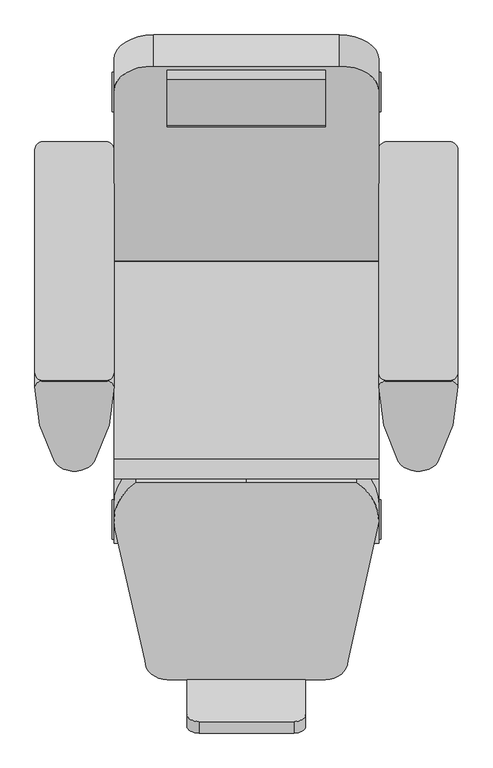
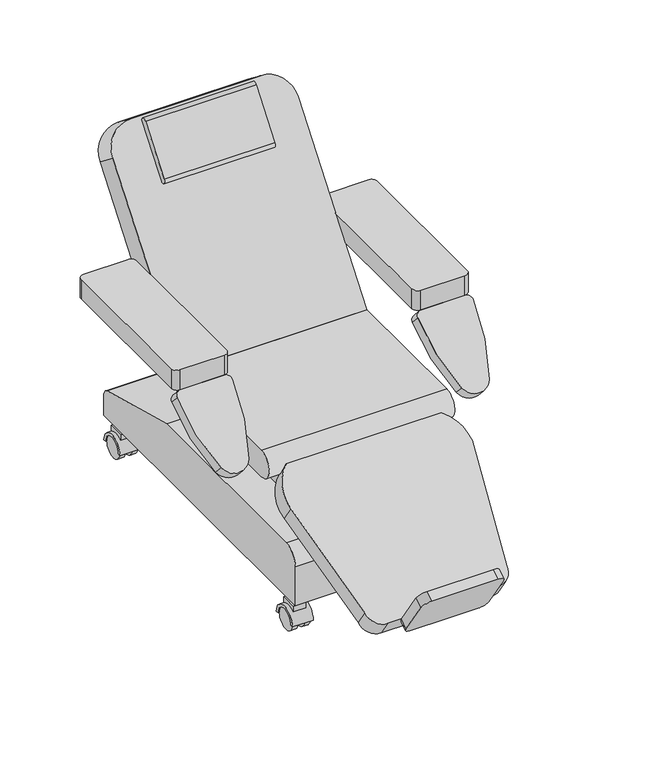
"""IFC4 building model written with IfcOpenShell, lengths in millimetres: furniture geometry, BIMHealth-Chair_Clinical_Reclining-LOD2A-v1 : BIMHealth-Chair_Clinical_Reclining-LOD2A-v1."""

from ifc_helpers import new_model, si_unit, point, frame, frame_2d, origin, place, context, project, spatial, polyline, circle_curve, trimmed, segment, composite_curve, outline, extrude, source, transform, mapped, element, save


def furniture_d13f64de(model_context):
    return source(origin(), model_context, "Body", "SweptSolid", [
        extrude(outline(composite_curve([segment(trimmed(circle_curve(frame_2d((302.7936384, 540.0)), 7.5), [point((310.2936384, 540.0))], [point((295.2936384, 540.0))], False, "CARTESIAN"), True, "CONTINUOUS"), segment(trimmed(circle_curve(frame_2d((302.7936384, 540.0)), 7.5), [point((295.2936384, 540.0))], [point((310.2936384, 540.0))], False, "CARTESIAN"), True, "CONTINUOUS")], self_intersect=False)), frame((0.0, 0.0, 102.2775188), z_axis=(0.0, 0.0, 1.0), x_axis=(1.0, 0.0, 0.0)), (0.0, 0.0, 1.0), 20.0),
        extrude(outline(composite_curve([segment(polyline([(569.2564005, 102.2775188), (569.2564005, 80.5470471)]), True, "CONTINUOUS"), segment(trimmed(circle_curve(frame_2d((540.0, 40.0)), 50.0), [point((569.2564005, 80.5470471))], [point((510.7435995, 80.5470471))], True, "CARTESIAN"), True, "CONTINUOUS"), segment(polyline([(510.7435995, 80.5470471), (510.7435995, 102.2775188), (569.2564005, 102.2775188)]), True, "CONTINUOUS")], self_intersect=False)), frame((280.1679747, 0.0, 0.0), z_axis=(1.0, 0.0, 0.0), x_axis=(0.0, 1.0, 0.0)), (0.0, 0.0, 1.0), 45.2513275),
        extrude(outline(composite_curve([segment(trimmed(circle_curve(frame_2d((540.0, 40.0)), 40.0), [point((580.0, 40.0))], [point((500.0, 40.0))], True, "CARTESIAN"), True, "CONTINUOUS"), segment(polyline([(500.0, 40.0), (490.0, 40.0)]), True, "CONTINUOUS"), segment(trimmed(circle_curve(frame_2d((540.0, 40.0)), 50.0), [point((490.0, 40.0))], [point((590.0, 40.0))], False, "CARTESIAN"), True, "CONTINUOUS"), segment(polyline([(590.0, 40.0), (580.0, 40.0)]), True, "CONTINUOUS")], self_intersect=False)), frame((265.0, 0.0, 0.0), z_axis=(1.0, 0.0, 0.0), x_axis=(0.0, 1.0, 0.0)), (0.0, 0.0, 1.0), 75.0),
        extrude(outline(composite_curve([segment(trimmed(circle_curve(frame_2d((540.0, 40.0)), 40.0), [point((500.0, 40.0))], [point((580.0, 40.0))], False, "CARTESIAN"), True, "CONTINUOUS"), segment(trimmed(circle_curve(frame_2d((540.0, 40.0)), 40.0), [point((580.0, 40.0))], [point((500.0, 40.0))], False, "CARTESIAN"), True, "CONTINUOUS")], self_intersect=False)), frame((270.0, 0.0, 0.0), z_axis=(1.0, 0.0, 0.0), x_axis=(0.0, 1.0, 0.0)), (0.0, 0.0, 1.0), 20.0),
        extrude(outline(composite_curve([segment(trimmed(circle_curve(frame_2d((540.0, 40.0)), 40.0), [point((500.0, 40.0))], [point((580.0, 40.0))], False, "CARTESIAN"), True, "CONTINUOUS"), segment(trimmed(circle_curve(frame_2d((540.0, 40.0)), 40.0), [point((580.0, 40.0))], [point((500.0, 40.0))], False, "CARTESIAN"), True, "CONTINUOUS")], self_intersect=False)), frame((315.0, 0.0, 0.0), z_axis=(1.0, 0.0, 0.0), x_axis=(0.0, 1.0, 0.0)), (0.0, 0.0, 1.0), 20.0),
        extrude(outline(composite_curve([segment(trimmed(circle_curve(frame_2d((-302.7936384, 540.0)), 7.5), [point((-310.2936384, 540.0))], [point((-295.2936384, 540.0))], False, "CARTESIAN"), True, "CONTINUOUS"), segment(trimmed(circle_curve(frame_2d((-302.7936384, 540.0)), 7.5), [point((-295.2936384, 540.0))], [point((-310.2936384, 540.0))], False, "CARTESIAN"), True, "CONTINUOUS")], self_intersect=False)), frame((0.0, 0.0, 102.2775188), z_axis=(0.0, 0.0, 1.0), x_axis=(1.0, 0.0, 0.0)), (0.0, 0.0, 1.0), 20.0),
        extrude(outline(composite_curve([segment(polyline([(569.2564005, 102.2775188), (569.2564005, 80.5470471)]), True, "CONTINUOUS"), segment(trimmed(circle_curve(frame_2d((540.0, 40.0)), 50.0), [point((569.2564005, 80.5470471))], [point((510.7435995, 80.5470471))], True, "CARTESIAN"), True, "CONTINUOUS"), segment(polyline([(510.7435995, 80.5470471), (510.7435995, 102.2775188), (569.2564005, 102.2775188)]), True, "CONTINUOUS")], self_intersect=False)), frame((-325.4193021, 0.0, 0.0), z_axis=(1.0, 0.0, 0.0), x_axis=(0.0, 1.0, 0.0)), (0.0, 0.0, 1.0), 45.2513275),
        extrude(outline(composite_curve([segment(trimmed(circle_curve(frame_2d((540.0, 40.0)), 40.0), [point((580.0, 40.0))], [point((500.0, 40.0))], True, "CARTESIAN"), True, "CONTINUOUS"), segment(polyline([(500.0, 40.0), (490.0, 40.0)]), True, "CONTINUOUS"), segment(trimmed(circle_curve(frame_2d((540.0, 40.0)), 50.0), [point((490.0, 40.0))], [point((590.0, 40.0))], False, "CARTESIAN"), True, "CONTINUOUS"), segment(polyline([(590.0, 40.0), (580.0, 40.0)]), True, "CONTINUOUS")], self_intersect=False)), frame((-340.0, 0.0, 0.0), z_axis=(1.0, 0.0, 0.0), x_axis=(0.0, 1.0, 0.0)), (0.0, 0.0, 1.0), 75.0),
        extrude(outline(composite_curve([segment(trimmed(circle_curve(frame_2d((540.0, 40.0)), 40.0), [point((500.0, 40.0))], [point((580.0, 40.0))], False, "CARTESIAN"), True, "CONTINUOUS"), segment(trimmed(circle_curve(frame_2d((540.0, 40.0)), 40.0), [point((580.0, 40.0))], [point((500.0, 40.0))], False, "CARTESIAN"), True, "CONTINUOUS")], self_intersect=False)), frame((-290.0, 0.0, 0.0), z_axis=(1.0, 0.0, 0.0), x_axis=(0.0, 1.0, 0.0)), (0.0, 0.0, 1.0), 20.0),
        extrude(outline(composite_curve([segment(trimmed(circle_curve(frame_2d((540.0, 40.0)), 40.0), [point((500.0, 40.0))], [point((580.0, 40.0))], False, "CARTESIAN"), True, "CONTINUOUS"), segment(trimmed(circle_curve(frame_2d((540.0, 40.0)), 40.0), [point((580.0, 40.0))], [point((500.0, 40.0))], False, "CARTESIAN"), True, "CONTINUOUS")], self_intersect=False)), frame((-335.0, 0.0, 0.0), z_axis=(1.0, 0.0, 0.0), x_axis=(0.0, 1.0, 0.0)), (0.0, 0.0, 1.0), 20.0),
        extrude(outline(composite_curve([segment(trimmed(circle_curve(frame_2d((302.7936384, -540.0)), 7.5), [point((310.2936384, -540.0))], [point((295.2936384, -540.0))], False, "CARTESIAN"), True, "CONTINUOUS"), segment(trimmed(circle_curve(frame_2d((302.7936384, -540.0)), 7.5), [point((295.2936384, -540.0))], [point((310.2936384, -540.0))], False, "CARTESIAN"), True, "CONTINUOUS")], self_intersect=False)), frame((0.0, 0.0, 102.2775188), z_axis=(0.0, 0.0, 1.0), x_axis=(1.0, 0.0, 0.0)), (0.0, 0.0, 1.0), 20.0),
        extrude(outline(composite_curve([segment(polyline([(-569.2564005, 102.2775188), (-510.7435995, 102.2775188), (-510.7435995, 80.5470471)]), True, "CONTINUOUS"), segment(trimmed(circle_curve(frame_2d((-540.0, 40.0)), 50.0), [point((-510.7435995, 80.5470471))], [point((-569.2564005, 80.5470471))], True, "CARTESIAN"), True, "CONTINUOUS"), segment(polyline([(-569.2564005, 80.5470471), (-569.2564005, 102.2775188)]), True, "CONTINUOUS")], self_intersect=False)), frame((280.1679747, 0.0, 0.0), z_axis=(1.0, 0.0, 0.0), x_axis=(0.0, 1.0, 0.0)), (0.0, 0.0, 1.0), 45.2513275),
        extrude(outline(composite_curve([segment(polyline([(-580.0, 40.0), (-590.0, 40.0)]), True, "CONTINUOUS"), segment(trimmed(circle_curve(frame_2d((-540.0, 40.0)), 50.0), [point((-590.0, 40.0))], [point((-490.0, 40.0))], False, "CARTESIAN"), True, "CONTINUOUS"), segment(polyline([(-490.0, 40.0), (-500.0, 40.0)]), True, "CONTINUOUS"), segment(trimmed(circle_curve(frame_2d((-540.0, 40.0)), 40.0), [point((-500.0, 40.0))], [point((-580.0, 40.0))], True, "CARTESIAN"), True, "CONTINUOUS")], self_intersect=False)), frame((265.0, 0.0, 0.0), z_axis=(1.0, 0.0, 0.0), x_axis=(0.0, 1.0, 0.0)), (0.0, 0.0, 1.0), 75.0),
        extrude(outline(composite_curve([segment(trimmed(circle_curve(frame_2d((-540.0, 40.0)), 40.0), [point((-500.0, 40.0))], [point((-580.0, 40.0))], False, "CARTESIAN"), True, "CONTINUOUS"), segment(trimmed(circle_curve(frame_2d((-540.0, 40.0)), 40.0), [point((-580.0, 40.0))], [point((-500.0, 40.0))], False, "CARTESIAN"), True, "CONTINUOUS")], self_intersect=False)), frame((270.0, 0.0, 0.0), z_axis=(1.0, 0.0, 0.0), x_axis=(0.0, 1.0, 0.0)), (0.0, 0.0, 1.0), 20.0),
        extrude(outline(composite_curve([segment(trimmed(circle_curve(frame_2d((-540.0, 40.0)), 40.0), [point((-500.0, 40.0))], [point((-580.0, 40.0))], False, "CARTESIAN"), True, "CONTINUOUS"), segment(trimmed(circle_curve(frame_2d((-540.0, 40.0)), 40.0), [point((-580.0, 40.0))], [point((-500.0, 40.0))], False, "CARTESIAN"), True, "CONTINUOUS")], self_intersect=False)), frame((315.0, 0.0, 0.0), z_axis=(1.0, 0.0, 0.0), x_axis=(0.0, 1.0, 0.0)), (0.0, 0.0, 1.0), 20.0),
        extrude(outline(composite_curve([segment(trimmed(circle_curve(frame_2d((-302.7936384, -540.0)), 7.5), [point((-310.2936384, -540.0))], [point((-295.2936384, -540.0))], False, "CARTESIAN"), True, "CONTINUOUS"), segment(trimmed(circle_curve(frame_2d((-302.7936384, -540.0)), 7.5), [point((-295.2936384, -540.0))], [point((-310.2936384, -540.0))], False, "CARTESIAN"), True, "CONTINUOUS")], self_intersect=False)), frame((0.0, 0.0, 102.2775188), z_axis=(0.0, 0.0, 1.0), x_axis=(1.0, 0.0, 0.0)), (0.0, 0.0, 1.0), 20.0),
        extrude(outline(composite_curve([segment(polyline([(-569.2564005, 102.2775188), (-510.7435995, 102.2775188), (-510.7435995, 80.5470471)]), True, "CONTINUOUS"), segment(trimmed(circle_curve(frame_2d((-540.0, 40.0)), 50.0), [point((-510.7435995, 80.5470471))], [point((-569.2564005, 80.5470471))], True, "CARTESIAN"), True, "CONTINUOUS"), segment(polyline([(-569.2564005, 80.5470471), (-569.2564005, 102.2775188)]), True, "CONTINUOUS")], self_intersect=False)), frame((-325.4193021, 0.0, 0.0), z_axis=(1.0, 0.0, 0.0), x_axis=(0.0, 1.0, 0.0)), (0.0, 0.0, 1.0), 45.2513275),
        extrude(outline(composite_curve([segment(polyline([(-580.0, 40.0), (-590.0, 40.0)]), True, "CONTINUOUS"), segment(trimmed(circle_curve(frame_2d((-540.0, 40.0)), 50.0), [point((-590.0, 40.0))], [point((-490.0, 40.0))], False, "CARTESIAN"), True, "CONTINUOUS"), segment(polyline([(-490.0, 40.0), (-500.0, 40.0)]), True, "CONTINUOUS"), segment(trimmed(circle_curve(frame_2d((-540.0, 40.0)), 40.0), [point((-500.0, 40.0))], [point((-580.0, 40.0))], True, "CARTESIAN"), True, "CONTINUOUS")], self_intersect=False)), frame((-340.0, 0.0, 0.0), z_axis=(1.0, 0.0, 0.0), x_axis=(0.0, 1.0, 0.0)), (0.0, 0.0, 1.0), 75.0),
        extrude(outline(composite_curve([segment(trimmed(circle_curve(frame_2d((-540.0, 40.0)), 40.0), [point((-500.0, 40.0))], [point((-580.0, 40.0))], False, "CARTESIAN"), True, "CONTINUOUS"), segment(trimmed(circle_curve(frame_2d((-540.0, 40.0)), 40.0), [point((-580.0, 40.0))], [point((-500.0, 40.0))], False, "CARTESIAN"), True, "CONTINUOUS")], self_intersect=False)), frame((-290.0, 0.0, 0.0), z_axis=(1.0, 0.0, 0.0), x_axis=(0.0, 1.0, 0.0)), (0.0, 0.0, 1.0), 20.0),
        extrude(outline(composite_curve([segment(trimmed(circle_curve(frame_2d((-540.0, 40.0)), 40.0), [point((-500.0, 40.0))], [point((-580.0, 40.0))], False, "CARTESIAN"), True, "CONTINUOUS"), segment(trimmed(circle_curve(frame_2d((-540.0, 40.0)), 40.0), [point((-580.0, 40.0))], [point((-500.0, 40.0))], False, "CARTESIAN"), True, "CONTINUOUS")], self_intersect=False)), frame((-335.0, 0.0, 0.0), z_axis=(1.0, 0.0, 0.0), x_axis=(0.0, 1.0, 0.0)), (0.0, 0.0, 1.0), 20.0),
        extrude(outline(composite_curve([segment(polyline([(-29.9999999, -30.0), (-29.9999999, 90.0), (-29.9999999, 210.0)]), True, "CONTINUOUS"), segment(trimmed(circle_curve(frame_2d((0.0, 210.0)), 30.0), [point((-29.9999999, 210.0))], [point((0.0, 240.0))], False, "CARTESIAN"), True, "CONTINUOUS"), segment(polyline([(0.0, 240.0), (165.0, 240.0)]), True, "CONTINUOUS"), segment(trimmed(circle_curve(frame_2d((165.0, 210.0)), 30.0), [point((165.0, 240.0))], [point((195.0000001, 210.0))], False, "CARTESIAN"), True, "CONTINUOUS"), segment(polyline([(195.0000001, 210.0), (195.0000001, -30.0)]), True, "CONTINUOUS"), segment(trimmed(circle_curve(frame_2d((165.0, -30.0)), 30.0), [point((195.0000001, -30.0))], [point((165.0, -60.0))], False, "CARTESIAN"), True, "CONTINUOUS"), segment(polyline([(165.0, -60.0), (0.0, -60.0)]), True, "CONTINUOUS"), segment(trimmed(circle_curve(frame_2d((0.0, -30.0)), 30.0), [point((0.0, -60.0))], [point((-29.9999999, -30.0))], False, "CARTESIAN"), True, "CONTINUOUS")], self_intersect=False)), frame((-90.0, -970.9632437, 196.4316417), z_axis=(0.0, 0.8290375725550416, 0.559192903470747), x_axis=(0.0, -0.559192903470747, 0.8290375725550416)), (0.0, 0.0, 1.0), 35.0),
        extrude(outline(composite_curve([segment(polyline([(-116.0912704, -244.9885096), (-116.0912704, 35.0114904), (-116.0912704, 315.0114904)]), True, "CONTINUOUS"), segment(trimmed(circle_curve(frame_2d((0.0, 220.0229808)), 150.0), [point((-116.0912704, 315.0114904))], [point((1.8566102, 370.0114904))], False, "CARTESIAN"), True, "CONTINUOUS"), segment(polyline([(1.8566102, 370.0114904), (427.3401871, 291.5800329)]), True, "CONTINUOUS"), segment(trimmed(circle_curve(frame_2d((427.3401871, 235.0114904)), 56.5685425), [point((427.3401871, 291.5800329))], [point((483.9087296, 235.0114904))], False, "CARTESIAN"), True, "CONTINUOUS"), segment(polyline([(483.9087296, 235.0114904), (483.9087296, 35.0114904), (483.9087296, -164.9885096)]), True, "CONTINUOUS"), segment(trimmed(circle_curve(frame_2d((427.3401871, -164.9885096)), 56.5685425), [point((483.9087296, -164.9885096))], [point((427.3401871, -221.5570521))], False, "CARTESIAN"), True, "CONTINUOUS"), segment(polyline([(427.3401871, -221.5570521), (27.9748094, -297.3682803)]), True, "CONTINUOUS"), segment(trimmed(circle_curve(frame_2d((0.0, -150.0)), 150.0), [point((27.9748094, -297.3682803))], [point((-116.0912704, -244.9885096))], False, "CARTESIAN"), True, "CONTINUOUS")], self_intersect=False)), frame((-35.0114904, -501.6249069, 428.5690908), z_axis=(0.0, -0.5591929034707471, 0.8290375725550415), x_axis=(0.0, -0.8290375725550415, -0.5591929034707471)), (0.0, 0.0, 1.0), 75.0),
        extrude(outline(composite_curve([segment(polyline([(591.7725485, 1202.8483861), (472.0470878, 1049.6067847)]), True, "CONTINUOUS"), segment(trimmed(circle_curve(frame_2d((464.4717339, 1059.6675821)), 12.5938728), [point((472.0470878, 1049.6067847))], [point((454.5476267, 1067.4211445))], False, "CARTESIAN"), True, "CONTINUOUS"), segment(polyline([(454.5476267, 1067.4211445), (571.9069058, 1218.3331519)]), True, "CONTINUOUS"), segment(trimmed(circle_curve(frame_2d((581.8484412, 1210.6019485)), 12.5938728), [point((571.9069058, 1218.3331519))], [point((591.7725485, 1202.8483861))], False, "CARTESIAN"), True, "CONTINUOUS")], self_intersect=False)), frame((-200.0, 0.0, 0.0), z_axis=(1.0, 0.0, 0.0), x_axis=(0.0, 1.0, 0.0)), (0.0, 0.0, 1.0), 400.0),
        extrude(outline(composite_curve([segment(trimmed(circle_curve(frame_2d((160.0, -20.0)), 20.0), [point((160.0, 0.0))], [point((180.0, -20.0))], False, "CARTESIAN"), True, "CONTINUOUS"), segment(trimmed(circle_curve(frame_2d((-494.5967434, -20.0)), 674.5967434), [point((180.0, -20.0))], [point((129.5798496, -275.8990954))], False, "CARTESIAN"), True, "CONTINUOUS"), segment(trimmed(circle_curve(frame_2d((80.0, -252.1825397)), 54.9603175), [point((129.5798496, -275.8990954))], [point((30.1028283, -275.2239969))], False, "CARTESIAN"), True, "CONTINUOUS"), segment(trimmed(circle_curve(frame_2d((655.1074172, -20.0)), 675.1074172), [point((30.1028283, -275.2239969))], [point((-20.0, -20.0))], False, "CARTESIAN"), True, "CONTINUOUS"), segment(trimmed(circle_curve(frame_2d((0.0, -20.0)), 20.0), [point((-20.0, -20.0))], [point((0.0, 0.0))], False, "CARTESIAN"), True, "CONTINUOUS"), segment(polyline([(0.0, 0.0), (160.0, 0.0)]), True, "CONTINUOUS")], self_intersect=False)), frame((355.0, -156.827132, 727.9431933), z_axis=(0.0, -0.6713547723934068, 0.7411361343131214), x_axis=(1.0, 0.0, 0.0)), (0.0, 0.0, 1.0), 50.0),
        extrude(outline(composite_curve([segment(polyline([(-20.0, -20.0), (-20.0, 140.0)]), True, "CONTINUOUS"), segment(trimmed(circle_curve(frame_2d((0.0, 140.0)), 20.0), [point((-20.0, 140.0))], [point((0.0, 160.0))], False, "CARTESIAN"), True, "CONTINUOUS"), segment(trimmed(circle_curve(frame_2d((0.0, -515.1074172)), 675.1074172), [point((0.0, 160.0))], [point((255.2239968, 109.8971717))], False, "CARTESIAN"), True, "CONTINUOUS"), segment(trimmed(circle_curve(frame_2d((232.1825396, 60.0)), 54.9603175), [point((255.2239968, 109.8971717))], [point((255.8990953, 10.4201504))], False, "CARTESIAN"), True, "CONTINUOUS"), segment(trimmed(circle_curve(frame_2d((0.0, 634.5967434)), 674.5967434), [point((255.8990953, 10.4201504))], [point((0.0, -40.0))], False, "CARTESIAN"), True, "CONTINUOUS"), segment(trimmed(circle_curve(frame_2d((0.0, -20.0)), 20.0), [point((0.0, -40.0))], [point((-20.0, -20.0))], False, "CARTESIAN"), True, "CONTINUOUS")], self_intersect=False)), frame((-495.0, -171.6498547, 714.5160978), z_axis=(0.0, -0.6713547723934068, 0.7411361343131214), x_axis=(0.0, -0.7411361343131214, -0.6713547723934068)), (0.0, 0.0, 1.0), 50.0),
        extrude(outline(composite_curve([segment(trimmed(circle_curve(frame_2d((355.0, 394.2267516)), 20.0), [point((335.0, 394.2267516))], [point((355.0, 414.2267516))], False, "CARTESIAN"), True, "CONTINUOUS"), segment(polyline([(355.0, 414.2267516), (515.0, 414.2267516)]), True, "CONTINUOUS"), segment(trimmed(circle_curve(frame_2d((515.0, 394.2267516)), 20.0), [point((515.0, 414.2267516))], [point((535.0, 394.2267516))], False, "CARTESIAN"), True, "CONTINUOUS"), segment(polyline([(535.0, 394.2267516), (535.0, -168.6503365)]), True, "CONTINUOUS"), segment(trimmed(circle_curve(frame_2d((515.0, -168.6503365)), 20.0), [point((535.0, -168.6503365))], [point((515.0, -188.6503365))], False, "CARTESIAN"), True, "CONTINUOUS"), segment(polyline([(515.0, -188.6503365), (355.0, -188.6503365)]), True, "CONTINUOUS"), segment(trimmed(circle_curve(frame_2d((355.0, -168.6503365)), 20.0), [point((355.0, -188.6503365))], [point((335.0, -168.6503365))], False, "CARTESIAN"), True, "CONTINUOUS"), segment(polyline([(335.0, -168.6503365), (335.0, 394.2267516)]), True, "CONTINUOUS")], self_intersect=False)), frame((0.0, 0.0, 765.0), z_axis=(0.0, 0.0, 1.0), x_axis=(1.0, 0.0, 0.0)), (0.0, 0.0, 1.0), 75.0),
        extrude(outline(composite_curve([segment(polyline([(-335.0, 394.2267516), (-335.0, -168.6503365)]), True, "CONTINUOUS"), segment(trimmed(circle_curve(frame_2d((-355.0, -168.6503365)), 20.0), [point((-335.0, -168.6503365))], [point((-355.0, -188.6503365))], False, "CARTESIAN"), True, "CONTINUOUS"), segment(polyline([(-355.0, -188.6503365), (-515.0, -188.6503365)]), True, "CONTINUOUS"), segment(trimmed(circle_curve(frame_2d((-515.0, -168.6503365)), 20.0), [point((-515.0, -188.6503365))], [point((-535.0, -168.6503365))], False, "CARTESIAN"), True, "CONTINUOUS"), segment(polyline([(-535.0, -168.6503365), (-535.0, 394.2267516)]), True, "CONTINUOUS"), segment(trimmed(circle_curve(frame_2d((-515.0, 394.2267516)), 20.0), [point((-535.0, 394.2267516))], [point((-515.0, 414.2267516))], False, "CARTESIAN"), True, "CONTINUOUS"), segment(polyline([(-515.0, 414.2267516), (-355.0, 414.2267516)]), True, "CONTINUOUS"), segment(trimmed(circle_curve(frame_2d((-355.0, 394.2267516)), 20.0), [point((-355.0, 414.2267516))], [point((-335.0, 394.2267516))], False, "CARTESIAN"), True, "CONTINUOUS")], self_intersect=False)), frame((0.0, 0.0, 765.0), z_axis=(0.0, 0.0, 1.0), x_axis=(1.0, 0.0, 0.0)), (0.0, 0.0, 1.0), 75.0),
        extrude(outline(composite_curve([segment(polyline([(0.0, 0.0), (0.0, -670.0), (-700.0, -670.0)]), True, "CONTINUOUS"), segment(trimmed(circle_curve(frame_2d((-700.0, -570.0)), 100.0), [point((-700.0, -670.0))], [point((-800.0, -570.0))], False, "CARTESIAN"), True, "CONTINUOUS"), segment(polyline([(-800.0, -570.0), (-800.0, -100.0)]), True, "CONTINUOUS"), segment(trimmed(circle_curve(frame_2d((-700.0, -100.0)), 100.0), [point((-800.0, -100.0))], [point((-700.0, 0.0))], False, "CARTESIAN"), True, "CONTINUOUS"), segment(polyline([(-700.0, 0.0), (0.0, 0.0)]), True, "CONTINUOUS")], self_intersect=False)), frame((335.0, 191.7639885, 528.4338525), z_axis=(0.0, -0.7880107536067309, 0.615661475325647), x_axis=(0.0, -0.615661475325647, -0.7880107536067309)), (0.0, 0.0, 1.0), 100.0),
        extrude(outline(composite_curve([segment(trimmed(circle_curve(frame_2d((-387.0370869, 540.0)), 50.0), [point((-387.0370869, 490.0))], [point((-387.0370869, 590.0))], False, "CARTESIAN"), True, "CONTINUOUS"), segment(polyline([(-387.0370869, 590.0), (112.9629131, 590.0)]), True, "CONTINUOUS"), segment(trimmed(circle_curve(frame_2d((112.9629131, 540.0)), 50.0), [point((112.9629131, 590.0))], [point((112.9629131, 490.0))], False, "CARTESIAN"), True, "CONTINUOUS"), segment(polyline([(112.9629131, 490.0), (-387.0370869, 490.0)]), True, "CONTINUOUS")], self_intersect=False)), frame((-335.0, 0.0, 0.0), z_axis=(1.0, 0.0, 0.0), x_axis=(0.0, 1.0, 0.0)), (0.0, 0.0, 1.0), 670.0),
        extrude(outline(polyline([(-200.0, -337.0370869), (-200.0, 62.9629131), (200.0, 62.9629131), (200.0, -337.0370869), (0.0, -337.0370869), (-200.0, -337.0370869)])), frame((0.0, 0.0, 331.5685425), z_axis=(0.0, 0.0, 1.0), x_axis=(1.0, 0.0, 0.0)), (0.0, 0.0, 1.0), 158.4314575),
        extrude(outline(composite_curve([segment(polyline([(-600.0, 125.0), (-600.0, 275.0)]), True, "CONTINUOUS"), segment(trimmed(circle_curve(frame_2d((-543.4314575, 275.0)), 56.5685425), [point((-600.0, 275.0))], [point((-543.4314575, 331.5685425))], False, "CARTESIAN"), True, "CONTINUOUS"), segment(polyline([(-543.4314575, 331.5685425), (206.5685425, 331.5685425), (579.2083698, 232.2164303)]), True, "CONTINUOUS"), segment(trimmed(circle_curve(frame_2d((564.6446609, 200.0)), 35.3553391), [point((579.2083698, 232.2164303))], [point((600.0, 200.0))], False, "CARTESIAN"), True, "CONTINUOUS"), segment(polyline([(600.0, 200.0), (600.0, 125.0), (-600.0, 125.0)]), True, "CONTINUOUS")], self_intersect=False)), frame((-335.0, 0.0, 0.0), z_axis=(1.0, 0.0, 0.0), x_axis=(0.0, 1.0, 0.0)), (0.0, 0.0, 1.0), 670.0),
    ])


if __name__ == "__main__":
    model = new_model("IFC4")
    model_context = context("Model", 3, world=origin())
    ifc_project = project(units=[si_unit("LENGTHUNIT", "METRE", prefix="MILLI")], contexts=[model_context])
    site = spatial("IfcSite", under=ifc_project)
    building = spatial("IfcBuilding", under=site)
    placement = place(None, origin())
    furniture_shape = furniture_d13f64de(model_context)
    element("IfcFurniture", 1, ObjectType="BIMHealth-Chair_Clinical_Reclining-LOD2A-v1 : BIMHealth-Chair_Clinical_Reclining-LOD2A-v1", at=placement, inside=building, context=model_context, shape_type="MappedRepresentation", body=[
        mapped(furniture_shape, transform((0.0, 0.0, 0.0), x_axis=(1.0, 0.0, 0.0), y_axis=(0.0, 1.0, 0.0), z_axis=(0.0, 0.0, 1.0))),
    ])
    save(model, "model.ifc")
